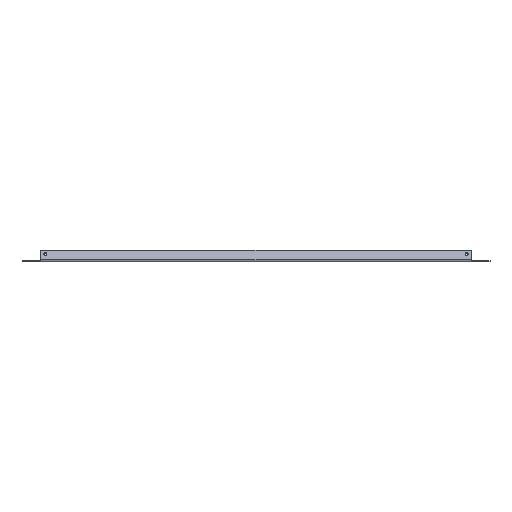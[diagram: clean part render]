
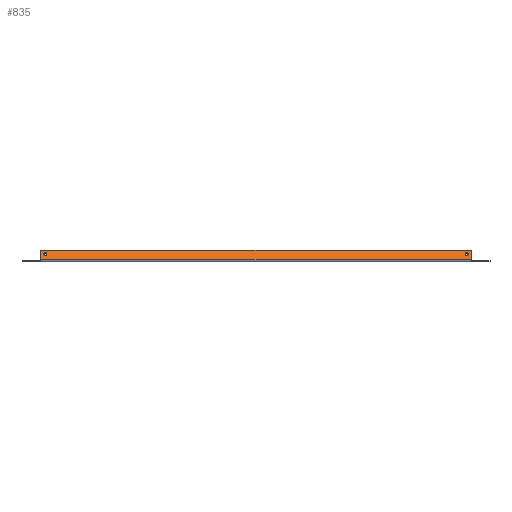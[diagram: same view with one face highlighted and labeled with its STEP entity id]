
A CAD part, front view. The second image highlights one B-rep face of the part: STEP entity #835.
In plain terms, the highlighted planar face has unit normal (0, -0.866, 0.5).
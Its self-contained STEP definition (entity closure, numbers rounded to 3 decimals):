
#2 = CARTESIAN_POINT ( 'NONE',  ( 483., -0.445, 1.73 ) ) ;
#30 = AXIS2_PLACEMENT_3D ( 'NONE', #39, #153, #913 ) ;
#39 = CARTESIAN_POINT ( 'NONE',  ( 20., 5.235, 11.567 ) ) ;
#44 = PLANE ( 'NONE',  #30 ) ;
#46 = VERTEX_POINT ( 'NONE', #1287 ) ;
#65 = VERTEX_POINT ( 'NONE', #279 ) ;
#69 = DIRECTION ( 'NONE',  ( 0., -0.5, -0.866 ) ) ;
#85 = CARTESIAN_POINT ( 'NONE',  ( 25., 2.735, 7.237 ) ) ;
#117 = VECTOR ( 'NONE', #260, 1000. ) ;
#145 = EDGE_CURVE ( 'NONE', #985, #1114, #1331, .T. ) ;
#153 = DIRECTION ( 'NONE',  ( 0., 0.866, -0.5 ) ) ;
#167 = DIRECTION ( 'NONE',  ( 0., -0.866, 0.5 ) ) ;
#186 = EDGE_LOOP ( 'NONE', ( #1278, #538 ) ) ;
#189 = CARTESIAN_POINT ( 'NONE',  ( 20., 5.235, 11.567 ) ) ;
#192 = DIRECTION ( 'NONE',  ( 0., -0.5, -0.866 ) ) ;
#240 = ORIENTED_EDGE ( 'NONE', *, *, #1212, .F. ) ;
#251 = AXIS2_PLACEMENT_3D ( 'NONE', #929, #283, #1040 ) ;
#260 = DIRECTION ( 'NONE',  ( 0., -0.5, -0.866 ) ) ;
#279 = CARTESIAN_POINT ( 'NONE',  ( 25., 3.61, 8.753 ) ) ;
#283 = DIRECTION ( 'NONE',  ( 0., -0.866, 0.5 ) ) ;
#404 = CARTESIAN_POINT ( 'NONE',  ( 478., 3.61, 8.753 ) ) ;
#406 = ORIENTED_EDGE ( 'NONE', *, *, #670, .F. ) ;
#410 = LINE ( 'NONE', #598, #117 ) ;
#430 = EDGE_CURVE ( 'NONE', #850, #1271, #1383, .T. ) ;
#442 = VERTEX_POINT ( 'NONE', #1217 ) ;
#448 = CARTESIAN_POINT ( 'NONE',  ( 20., 5.235, 11.567 ) ) ;
#464 = VECTOR ( 'NONE', #628, 1000. ) ;
#474 = ORIENTED_EDGE ( 'NONE', *, *, #430, .F. ) ;
#526 = EDGE_CURVE ( 'NONE', #1340, #850, #410, .T. ) ;
#534 = CIRCLE ( 'NONE', #1268, 1.75 ) ;
#538 = ORIENTED_EDGE ( 'NONE', *, *, #930, .F. ) ;
#596 = VECTOR ( 'NONE', #1327, 1000. ) ;
#598 = CARTESIAN_POINT ( 'NONE',  ( 483., 5.235, 11.567 ) ) ;
#615 = FACE_BOUND ( 'NONE', #1043, .T. ) ;
#628 = DIRECTION ( 'NONE',  ( 0., 0.5, 0.866 ) ) ;
#662 = DIRECTION ( 'NONE',  ( -1., 0., 0. ) ) ;
#670 = EDGE_CURVE ( 'NONE', #1114, #985, #534, .T. ) ;
#686 = ORIENTED_EDGE ( 'NONE', *, *, #740, .F. ) ;
#692 = LINE ( 'NONE', #448, #596 ) ;
#724 = DIRECTION ( 'NONE',  ( 0., -0.866, 0.5 ) ) ;
#740 = EDGE_CURVE ( 'NONE', #1271, #442, #999, .T. ) ;
#792 = VECTOR ( 'NONE', #662, 1000. ) ;
#798 = CARTESIAN_POINT ( 'NONE',  ( 483., -0.445, 1.73 ) ) ;
#820 = CARTESIAN_POINT ( 'NONE',  ( 478., 2.735, 7.237 ) ) ;
#835 = ADVANCED_FACE ( 'NONE', ( #1153, #615, #892 ), #44, .F. ) ;
#848 = DIRECTION ( 'NONE',  ( 0., -0.866, 0.5 ) ) ;
#850 = VERTEX_POINT ( 'NONE', #798 ) ;
#892 = FACE_BOUND ( 'NONE', #186, .T. ) ;
#913 = DIRECTION ( 'NONE',  ( 0., 0.5, 0.866 ) ) ;
#928 = DIRECTION ( 'NONE',  ( 0., -0.5, -0.866 ) ) ;
#929 = CARTESIAN_POINT ( 'NONE',  ( 25., 2.735, 7.237 ) ) ;
#930 = EDGE_CURVE ( 'NONE', #65, #46, #1083, .T. ) ;
#985 = VERTEX_POINT ( 'NONE', #404 ) ;
#999 = LINE ( 'NONE', #189, #464 ) ;
#1040 = DIRECTION ( 'NONE',  ( 0., -0.5, -0.866 ) ) ;
#1043 = EDGE_LOOP ( 'NONE', ( #406, #1338 ) ) ;
#1052 = EDGE_CURVE ( 'NONE', #46, #65, #1119, .T. ) ;
#1056 = AXIS2_PLACEMENT_3D ( 'NONE', #85, #848, #192 ) ;
#1083 = CIRCLE ( 'NONE', #251, 1.75 ) ;
#1114 = VERTEX_POINT ( 'NONE', #1413 ) ;
#1116 = CARTESIAN_POINT ( 'NONE',  ( 483., 5.235, 11.567 ) ) ;
#1119 = CIRCLE ( 'NONE', #1056, 1.75 ) ;
#1134 = ORIENTED_EDGE ( 'NONE', *, *, #526, .F. ) ;
#1153 = FACE_OUTER_BOUND ( 'NONE', #1351, .T. ) ;
#1212 = EDGE_CURVE ( 'NONE', #442, #1340, #692, .T. ) ;
#1217 = CARTESIAN_POINT ( 'NONE',  ( 20., 5.235, 11.567 ) ) ;
#1244 = AXIS2_PLACEMENT_3D ( 'NONE', #820, #167, #928 ) ;
#1268 = AXIS2_PLACEMENT_3D ( 'NONE', #1382, #724, #69 ) ;
#1271 = VERTEX_POINT ( 'NONE', #1330 ) ;
#1278 = ORIENTED_EDGE ( 'NONE', *, *, #1052, .F. ) ;
#1287 = CARTESIAN_POINT ( 'NONE',  ( 25., 1.86, 5.722 ) ) ;
#1327 = DIRECTION ( 'NONE',  ( 1., 0., 0. ) ) ;
#1330 = CARTESIAN_POINT ( 'NONE',  ( 20., -0.445, 1.73 ) ) ;
#1331 = CIRCLE ( 'NONE', #1244, 1.75 ) ;
#1338 = ORIENTED_EDGE ( 'NONE', *, *, #145, .F. ) ;
#1340 = VERTEX_POINT ( 'NONE', #1116 ) ;
#1351 = EDGE_LOOP ( 'NONE', ( #240, #686, #474, #1134 ) ) ;
#1382 = CARTESIAN_POINT ( 'NONE',  ( 478., 2.735, 7.237 ) ) ;
#1383 = LINE ( 'NONE', #2, #792 ) ;
#1413 = CARTESIAN_POINT ( 'NONE',  ( 478., 1.86, 5.722 ) ) ;
